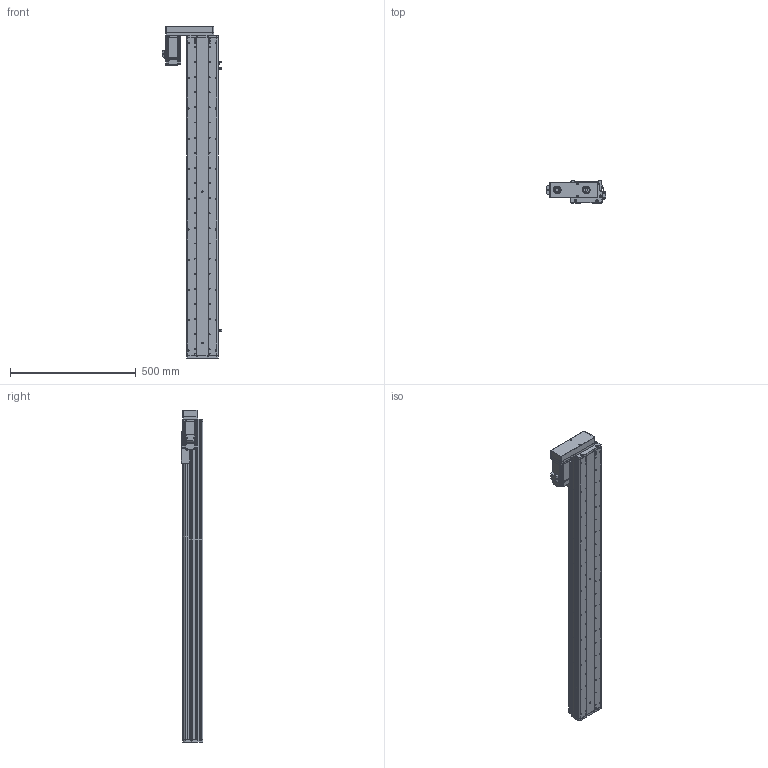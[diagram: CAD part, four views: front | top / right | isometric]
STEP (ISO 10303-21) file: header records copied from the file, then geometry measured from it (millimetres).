
FILE_DESCRIPTION (( 'STEP AP214' ), '1' );
FILE_NAME ('KSD125S-S1050-ML-CM.STEP', '2017-10-21T08:43:48', ( '微软用户' ), ( '微软中国' ), 'SwSTEP 2.0', 'SolidWorks 2014', '' );
FILE_SCHEMA (( 'AUTOMOTIVE_DESIGN' ));
Length unit declared in the file: millimetre
Products named in the file (16): 覜茼え68遵圉猾敕; U倰嫖萇EEㄜSX672; HTPA30S3M150_A_H6_a佪裝蚚; HTPA30S3M150_A_H6_a萇儂蚚; 125宽马达安装板连板左右折丝杆; 125悵誘欶酘衵殏; KSD125S-1050俴最佪裝滅鳥裔; KSD125S-1050俴最佪裝菁啣; MHMD042G1CA_2_03; 拸萇儂釱滅袉菜; 拸萇儂釱滅袉菜-1; U倰嫖萇假蚾璃; ヶ傷啣-125遵耀郪; KSD125-賑雄釱1; 125-帣傷啣1; KSD125S-S1050-ML-CM
Assembly tree (19 placements, depth 2):
  KSD125S-S1050-ML-CM
    125-帣傷啣1
    KSD125-賑雄釱1
    ヶ傷啣-125遵耀郪
    U倰嫖萇假蚾璃  x3
    拸萇儂釱滅袉菜-1
    拸萇儂釱滅袉菜
    MHMD042G1CA_2_03
    KSD125S-1050俴最佪裝菁啣
    KSD125S-1050俴最佪裝滅鳥裔
    125悵誘欶酘衵殏
    125宽马达安装板连板左右折丝杆
    HTPA30S3M150_A_H6_a萇儂蚚
    HTPA30S3M150_A_H6_a佪裝蚚
    U倰嫖萇EEㄜSX672  x3
    覜茼え68遵圉猾敕
Bounding box: 234.2 x 86 x 1317.5 mm (x, y, z)
Volume: 4108217.6 mm3; surface area: 1382220.1 mm2
Topology: 18 solids, 21 shells, 2273 faces, 6597 edges, 4353 vertices
Faces by surface type: cylinder 1442, plane 690, cone 119, bspline 22
Entity records: 80603 total; most frequent: CARTESIAN_POINT 16327, DIRECTION 12571, ORIENTED_EDGE 11702, EDGE_CURVE 5929, AXIS2_PLACEMENT_3D 4875, VERTEX_POINT 3945, LINE 2821, VECTOR 2821
